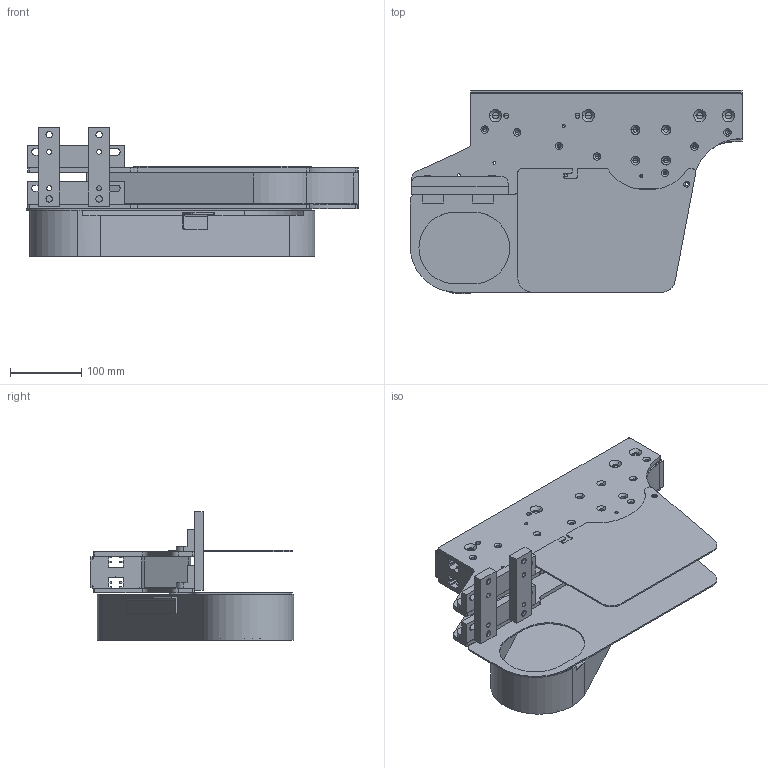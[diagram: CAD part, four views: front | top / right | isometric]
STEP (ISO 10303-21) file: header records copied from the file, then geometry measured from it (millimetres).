
FILE_DESCRIPTION (( 'STEP AP214' ), '1' );
FILE_NAME ('FKID SD 0L.step', '2017-04-07T11:07:14', ( '' ), ( '' ), 'SwSTEP 2.0', 'SolidWorks 2016', '' );
FILE_SCHEMA (( 'AUTOMOTIVE_DESIGN' ));
Length unit declared in the file: millimetre
Products named in the file (1): FKID SD 0L
Bounding box: 465.3 x 285.68 x 180.5 mm (x, y, z)
Volume: 2798370.3 mm3; surface area: 880624.9 mm2
Topology: 10 solids, 10 shells, 579 faces, 1582 edges, 1002 vertices
Faces by surface type: cylinder 263, plane 190, cone 120, torus 6
Entity records: 18895 total; most frequent: DIRECTION 3346, CARTESIAN_POINT 3112, ORIENTED_EDGE 3060, EDGE_CURVE 1530, AXIS2_PLACEMENT_3D 1236, VERTEX_POINT 1002, VECTOR 874, LINE 874
